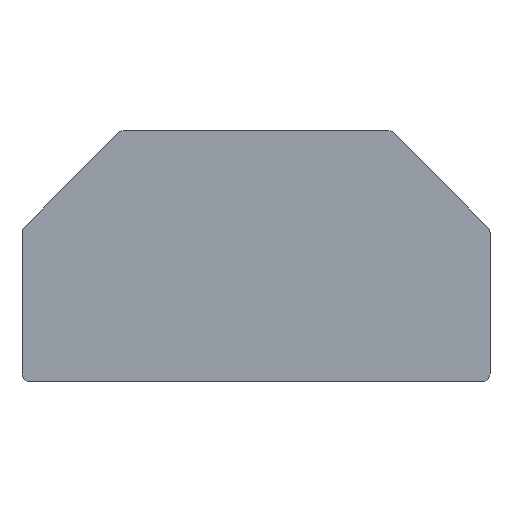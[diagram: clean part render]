
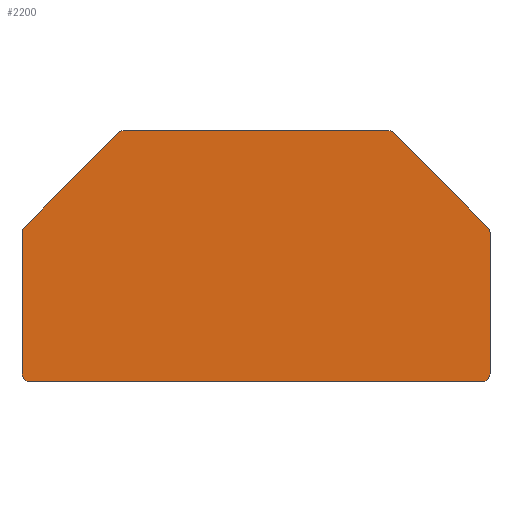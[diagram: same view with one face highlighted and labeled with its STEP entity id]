
A CAD part, top view. The second image highlights one B-rep face of the part: STEP entity #2200.
In plain terms, the highlighted planar face has unit normal (0, 0, 1).
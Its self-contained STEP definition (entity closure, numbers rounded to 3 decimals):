
#1110=CARTESIAN_POINT('',(0.,0.,1.));
#1120=DIRECTION('',(0.,0.,1.));
#1130=DIRECTION('',(1.,0.,-0.));
#1140=AXIS2_PLACEMENT_3D('',#1110,#1120,#1130);
#1150=PLANE('',#1140);
#1160=CARTESIAN_POINT('',(-44.882,20.193,1.));
#1170=DIRECTION('',(0.707,0.707,0.));
#1180=VECTOR('',#1170,1.);
#1190=LINE('',#1160,#1180);
#1200=CARTESIAN_POINT('',(-44.882,20.193,1.));
#1210=VERTEX_POINT('',#1200);
#1220=CARTESIAN_POINT('',(-32.968,32.107,1.));
#1230=VERTEX_POINT('',#1220);
#1240=EDGE_CURVE('',#1210,#1230,#1190,.T.);
#1250=ORIENTED_EDGE('',*,*,#1240,.F.);
#1260=CARTESIAN_POINT('',(-32.261,31.4,1.));
#1270=DIRECTION('',(0.,0.,1.));
#1280=DIRECTION('',(1.,0.,0.));
#1290=AXIS2_PLACEMENT_3D('',#1260,#1270,#1280);
#1300=CIRCLE('',#1290,1.);
#1310=CARTESIAN_POINT('',(-32.261,32.4,1.));
#1320=VERTEX_POINT('',#1310);
#1330=EDGE_CURVE('',#1320,#1230,#1300,.T.);
#1340=ORIENTED_EDGE('',*,*,#1330,.T.);
#1350=CARTESIAN_POINT('',(-32.261,32.4,1.));
#1360=DIRECTION('',(1.,0.,0.));
#1370=VECTOR('',#1360,1.);
#1380=LINE('',#1350,#1370);
#1390=CARTESIAN_POINT('',(0.911,32.4,1.));
#1400=VERTEX_POINT('',#1390);
#1410=EDGE_CURVE('',#1320,#1400,#1380,.T.);
#1420=ORIENTED_EDGE('',*,*,#1410,.F.);
#1430=CARTESIAN_POINT('',(0.911,31.4,1.));
#1440=DIRECTION('',(0.,0.,1.));
#1450=DIRECTION('',(1.,0.,0.));
#1460=AXIS2_PLACEMENT_3D('',#1430,#1440,#1450);
#1470=CIRCLE('',#1460,1.);
#1480=CARTESIAN_POINT('',(1.618,32.107,1.));
#1490=VERTEX_POINT('',#1480);
#1500=EDGE_CURVE('',#1490,#1400,#1470,.T.);
#1510=ORIENTED_EDGE('',*,*,#1500,.T.);
#1520=CARTESIAN_POINT('',(1.618,32.107,1.));
#1530=DIRECTION('',(0.707,-0.707,0.));
#1540=VECTOR('',#1530,1.);
#1550=LINE('',#1520,#1540);
#1560=CARTESIAN_POINT('',(13.532,20.193,1.));
#1570=VERTEX_POINT('',#1560);
#1580=EDGE_CURVE('',#1490,#1570,#1550,.T.);
#1590=ORIENTED_EDGE('',*,*,#1580,.F.);
#1600=CARTESIAN_POINT('',(12.825,19.486,1.));
#1610=DIRECTION('',(0.,0.,1.));
#1620=DIRECTION('',(1.,0.,0.));
#1630=AXIS2_PLACEMENT_3D('',#1600,#1610,#1620);
#1640=CIRCLE('',#1630,1.);
#1650=CARTESIAN_POINT('',(13.825,19.486,1.));
#1660=VERTEX_POINT('',#1650);
#1670=EDGE_CURVE('',#1660,#1570,#1640,.T.);
#1680=ORIENTED_EDGE('',*,*,#1670,.T.);
#1690=CARTESIAN_POINT('',(13.825,19.486,1.));
#1700=DIRECTION('',(0.,-1.,0.));
#1710=VECTOR('',#1700,1.);
#1720=LINE('',#1690,#1710);
#1730=CARTESIAN_POINT('',(13.825,1.7,1.));
#1740=VERTEX_POINT('',#1730);
#1750=EDGE_CURVE('',#1660,#1740,#1720,.T.);
#1760=ORIENTED_EDGE('',*,*,#1750,.F.);
#1770=CARTESIAN_POINT('',(12.825,1.7,1.));
#1780=DIRECTION('',(0.,0.,1.));
#1790=DIRECTION('',(1.,0.,0.));
#1800=AXIS2_PLACEMENT_3D('',#1770,#1780,#1790);
#1810=CIRCLE('',#1800,1.);
#1820=CARTESIAN_POINT('',(12.825,0.7,1.));
#1830=VERTEX_POINT('',#1820);
#1840=EDGE_CURVE('',#1830,#1740,#1810,.T.);
#1850=ORIENTED_EDGE('',*,*,#1840,.T.);
#1860=CARTESIAN_POINT('',(12.825,0.7,1.));
#1870=DIRECTION('',(-1.,0.,0.));
#1880=VECTOR('',#1870,1.);
#1890=LINE('',#1860,#1880);
#1900=CARTESIAN_POINT('',(-44.175,0.7,1.));
#1910=VERTEX_POINT('',#1900);
#1920=EDGE_CURVE('',#1830,#1910,#1890,.T.);
#1930=ORIENTED_EDGE('',*,*,#1920,.F.);
#1940=CARTESIAN_POINT('',(-44.175,1.7,1.));
#1950=DIRECTION('',(0.,0.,1.));
#1960=DIRECTION('',(1.,0.,0.));
#1970=AXIS2_PLACEMENT_3D('',#1940,#1950,#1960);
#1980=CIRCLE('',#1970,1.);
#1990=CARTESIAN_POINT('',(-45.175,1.7,1.));
#2000=VERTEX_POINT('',#1990);
#2010=EDGE_CURVE('',#2000,#1910,#1980,.T.);
#2020=ORIENTED_EDGE('',*,*,#2010,.T.);
#2030=CARTESIAN_POINT('',(-45.175,1.7,1.));
#2040=DIRECTION('',(0.,1.,0.));
#2050=VECTOR('',#2040,1.);
#2060=LINE('',#2030,#2050);
#2070=CARTESIAN_POINT('',(-45.175,19.486,1.));
#2080=VERTEX_POINT('',#2070);
#2090=EDGE_CURVE('',#2000,#2080,#2060,.T.);
#2100=ORIENTED_EDGE('',*,*,#2090,.F.);
#2110=CARTESIAN_POINT('',(-44.175,19.486,1.));
#2120=DIRECTION('',(0.,0.,1.));
#2130=DIRECTION('',(1.,0.,0.));
#2140=AXIS2_PLACEMENT_3D('',#2110,#2120,#2130);
#2150=CIRCLE('',#2140,1.);
#2160=EDGE_CURVE('',#1210,#2080,#2150,.T.);
#2170=ORIENTED_EDGE('',*,*,#2160,.T.);
#2180=EDGE_LOOP('',(#2170,#2100,#2020,#1930,#1850,#1760,#1680,#1590,
#1510,#1420,#1340,#1250));
#2190=FACE_OUTER_BOUND('',#2180,.T.);
#2200=ADVANCED_FACE('',(#2190),#1150,.T.);
